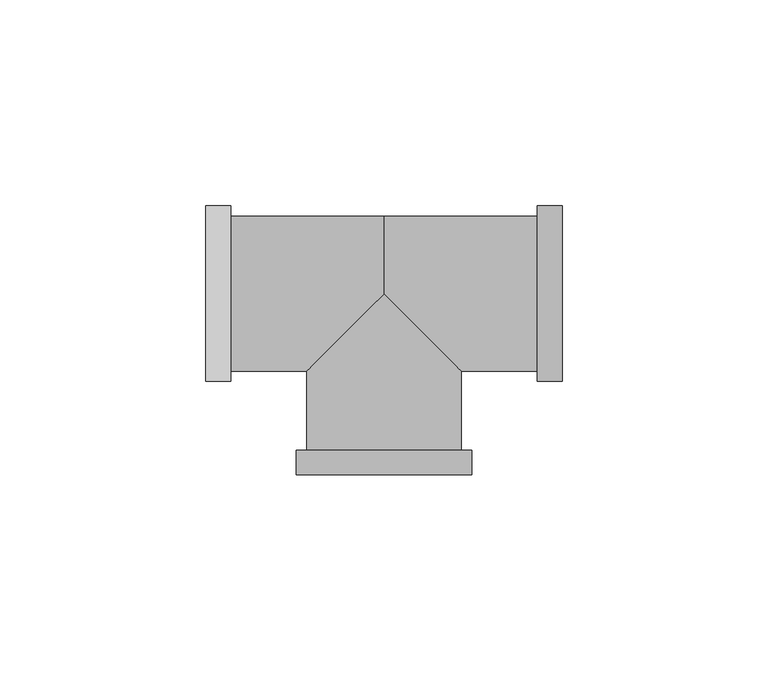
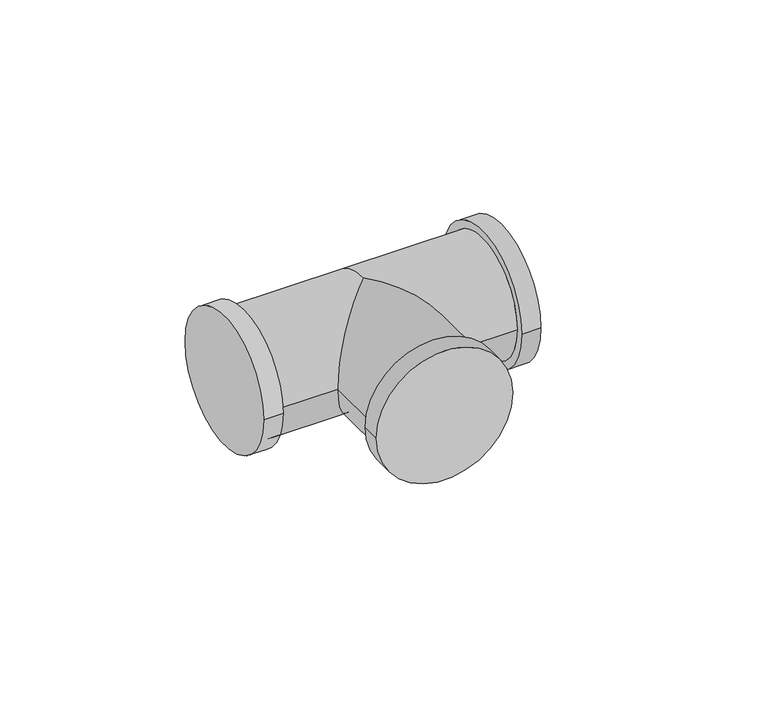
"""IFC4 building model written with IfcOpenShell, lengths in millimetres: pipe fitting geometry, Tê de redução - PVC - CW : Padrão."""

from ifc_helpers import new_model, si_unit, frame, origin, place, context, project, spatial, circle_curve, ellipse_curve, source, transform, mapped, element, save
from ifc_brep_helpers import plane_surface, cylinder_surface, advanced_brep


def pipe_fitting_14eb6376(model_context):
    return source(origin(), model_context, "Body", "AdvancedBrep", [
        advanced_brep(
        [(37.25, 18.8, 0.0), (0.0, 18.8, 0.0), (0.0, 0.0, 18.8), (18.8, -18.8, 0.0), (37.25, -18.8, 0.0), (0.0, 0.0, -18.8), (-37.25, 18.8, 0.0), (-37.25, -18.8, 0.0), (-18.8, -18.8, 0.0), (18.8, -38.0, 0.0), (-18.8, -38.0, 0.0), (-37.25, 21.3, 0.0), (-37.25, -21.3, 0.0), (-43.25, 21.3, 0.0), (-43.25, -21.3, 0.0), (37.25, -21.3, 0.0), (37.25, 21.3, 0.0), (43.25, -21.3, 0.0), (43.25, 21.3, 0.0), (-21.3, -38.0, 0.0), (21.3, -38.0, 0.0), (-21.3, -44.0, 0.0), (21.3, -44.0, 0.0)],
        [
            (0, 1),
            (1, 2, circle_curve(frame((0.0, 0.0, 0.0), z_axis=(1.0, 0.0, 0.0), x_axis=(0.0, 1.0, 0.0)), 18.8)),
            (2, 3, ellipse_curve(frame((0.0, 0.0, 0.0), z_axis=(0.7071067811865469, 0.707106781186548, 0.0), x_axis=(-0.7071067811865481, 0.7071067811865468, 0.0)), 26.587215, 18.8)),
            (3, 4),
            (4, 0, circle_curve(frame((37.25, 0.0, 0.0), z_axis=(-1.0, 0.0, 0.0), x_axis=(0.0, 1.0, 0.0)), 18.8)),
            (0, 4, circle_curve(frame((37.25, 0.0, 0.0), z_axis=(-1.0, 0.0, 0.0), x_axis=(0.0, 1.0, 0.0)), 18.8)),
            (3, 5, ellipse_curve(frame((0.0, 0.0, 0.0), z_axis=(0.7071067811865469, 0.707106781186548, 0.0), x_axis=(-0.7071067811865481, 0.7071067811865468, 0.0)), 26.587215, 18.8)),
            (5, 1, circle_curve(frame((0.0, 0.0, 0.0), z_axis=(1.0, 0.0, 0.0), x_axis=(0.0, 1.0, 0.0)), 18.8)),
            (1, 6),
            (6, 7, circle_curve(frame((-37.25, 0.0, 0.0), z_axis=(1.0, 0.0, 0.0), x_axis=(0.0, 1.0, 0.0)), 18.8)),
            (7, 8),
            (8, 2, ellipse_curve(frame((0.0, 0.0, 0.0), z_axis=(-0.707106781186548, 0.7071067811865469, 0.0), x_axis=(-0.7071067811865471, -0.7071067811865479, 0.0)), 26.587215, 18.8)),
            (5, 8, ellipse_curve(frame((0.0, 0.0, 0.0), z_axis=(-0.707106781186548, 0.7071067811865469, 0.0), x_axis=(-0.7071067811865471, -0.7071067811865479, 0.0)), 26.587215, 18.8)),
            (7, 6, circle_curve(frame((-37.25, 0.0, 0.0), z_axis=(1.0, 0.0, 0.0), x_axis=(0.0, 1.0, 0.0)), 18.8)),
            (9, 3),
            (8, 10),
            (10, 9, circle_curve(frame((0.0, -38.0, 0.0), z_axis=(0.0, 1.0, 0.0), x_axis=(1.0, 0.0, 0.0)), 18.8)),
            (9, 10, circle_curve(frame((0.0, -38.0, 0.0), z_axis=(0.0, 1.0, 0.0), x_axis=(1.0, 0.0, 0.0)), 18.8)),
            (11, 12, circle_curve(frame((-37.25, 0.0, 0.0), z_axis=(1.0, 0.0, 0.0), x_axis=(0.0, -1.0, 0.0)), 21.3)),
            (12, 11, circle_curve(frame((-37.25, 0.0, 0.0), z_axis=(1.0, 0.0, 0.0), x_axis=(0.0, -1.0, 0.0)), 21.3)),
            (13, 14, circle_curve(frame((-43.25, 0.0, 0.0), z_axis=(-1.0, 0.0, 0.0), x_axis=(0.0, -1.0, 0.0)), 21.3)),
            (14, 13, circle_curve(frame((-43.25, 0.0, 0.0), z_axis=(-1.0, 0.0, 0.0), x_axis=(0.0, -1.0, 0.0)), 21.3)),
            (11, 13),
            (14, 12),
            (15, 16, circle_curve(frame((37.25, 0.0, 0.0), z_axis=(-1.0, 0.0, 0.0), x_axis=(0.0, 1.0, 0.0)), 21.3)),
            (16, 15, circle_curve(frame((37.25, 0.0, 0.0), z_axis=(-1.0, 0.0, 0.0), x_axis=(0.0, 1.0, 0.0)), 21.3)),
            (17, 18, circle_curve(frame((43.25, 0.0, 0.0), z_axis=(1.0, 0.0, 0.0), x_axis=(0.0, 1.0, 0.0)), 21.3)),
            (18, 17, circle_curve(frame((43.25, 0.0, 0.0), z_axis=(1.0, 0.0, 0.0), x_axis=(0.0, 1.0, 0.0)), 21.3)),
            (15, 17),
            (18, 16),
            (19, 20, circle_curve(frame((0.0, -38.0, 0.0), z_axis=(0.0, 1.0, 0.0), x_axis=(1.0, 0.0, 0.0)), 21.3)),
            (20, 19, circle_curve(frame((0.0, -38.0, 0.0), z_axis=(0.0, 1.0, 0.0), x_axis=(1.0, 0.0, 0.0)), 21.3)),
            (21, 22, circle_curve(frame((0.0, -44.0, 0.0), z_axis=(0.0, -1.0, 0.0), x_axis=(1.0, 0.0, 0.0)), 21.3)),
            (22, 21, circle_curve(frame((0.0, -44.0, 0.0), z_axis=(0.0, -1.0, 0.0), x_axis=(1.0, 0.0, 0.0)), 21.3)),
            (19, 21),
            (22, 20),
        ],
        [
            cylinder_surface(frame((0.0, 0.0, 0.0), z_axis=(-1.0, 0.0, 0.0), x_axis=(0.0, 1.0, 0.0)), 18.8),
            cylinder_surface(frame((-37.25, 0.0, 0.0), z_axis=(-1.0, 0.0, 0.0), x_axis=(0.0, 1.0, 0.0)), 18.8),
            cylinder_surface(frame((0.0, 0.0, 0.0), z_axis=(0.0, 1.0, 0.0), x_axis=(1.0, 0.0, 0.0)), 18.8),
            plane_surface(frame((-37.25, 0.0, 0.0), z_axis=(1.0, 0.0, 0.0), x_axis=(0.0, 0.0, 1.0))),
            plane_surface(frame((-43.25, 0.0, 0.0), z_axis=(-1.0, 0.0, 0.0), x_axis=(0.0, 0.0, 1.0))),
            cylinder_surface(frame((-37.25, 0.0, 0.0), z_axis=(1.0, 0.0, 0.0), x_axis=(0.0, -1.0, 0.0)), 21.3),
            plane_surface(frame((37.25, 0.0, 0.0), z_axis=(-1.0, 0.0, 0.0), x_axis=(0.0, 0.0, 1.0))),
            plane_surface(frame((43.25, 0.0, 0.0), z_axis=(1.0, 0.0, 0.0), x_axis=(0.0, 0.0, 1.0))),
            cylinder_surface(frame((37.25, 0.0, 0.0), z_axis=(-1.0, 0.0, 0.0), x_axis=(0.0, 1.0, 0.0)), 21.3),
            plane_surface(frame((0.0, -38.0, 0.0), z_axis=(0.0, 1.0, 0.0), x_axis=(0.0, 0.0, 1.0))),
            plane_surface(frame((0.0, -44.0, 0.0), z_axis=(0.0, -1.0, 0.0), x_axis=(0.0, 0.0, 1.0))),
            cylinder_surface(frame((0.0, -38.0, 0.0), z_axis=(0.0, 1.0, 0.0), x_axis=(1.0, 0.0, 0.0)), 21.3),
        ],
        [
            (0, [[1, 2, 3, 4, 5]]),
            (0, [[-1, 6, -4, 7, 8]]),
            (1, [[9, 10, 11, 12, -2]]),
            (1, [[-9, -8, 13, -11, 14]]),
            (2, [[15, -3, -12, 16, 17]]),
            (2, [[-15, 18, -16, -13, -7]]),
            (3, [[19, 20], [-10, -14]]),
            (4, [[21, 22]]),
            (5, [[-19, 23, -22, 24]]),
            (5, [[-20, -24, -21, -23]]),
            (6, [[25, 26], [-5, -6]]),
            (7, [[27, 28]]),
            (8, [[-25, 29, -28, 30]]),
            (8, [[-26, -30, -27, -29]]),
            (9, [[31, 32], [-17, -18]]),
            (10, [[33, 34]]),
            (11, [[-31, 35, -34, 36]]),
            (11, [[-32, -36, -33, -35]]),
        ],
    ),
    ])


if __name__ == "__main__":
    model = new_model("IFC4")
    model_context = context("Model", 3, world=origin())
    ifc_project = project(units=[si_unit("LENGTHUNIT", "METRE", prefix="MILLI")], contexts=[model_context])
    site = spatial("IfcSite", under=ifc_project)
    building = spatial("IfcBuilding", under=site)
    placement = place(None, origin())
    pipe_fitting_shape = pipe_fitting_14eb6376(model_context)
    element("IfcPipeFitting", 1, ObjectType="Tê de redução - PVC - CW : Padrão", at=placement, inside=building, context=model_context, shape_type="MappedRepresentation", body=[
        mapped(pipe_fitting_shape, transform((0.0, 0.0, 0.0), x_axis=(1.0, 0.0, 0.0), y_axis=(0.0, 1.0, 0.0), z_axis=(0.0, 0.0, 1.0))),
    ])
    save(model, "model.ifc")
